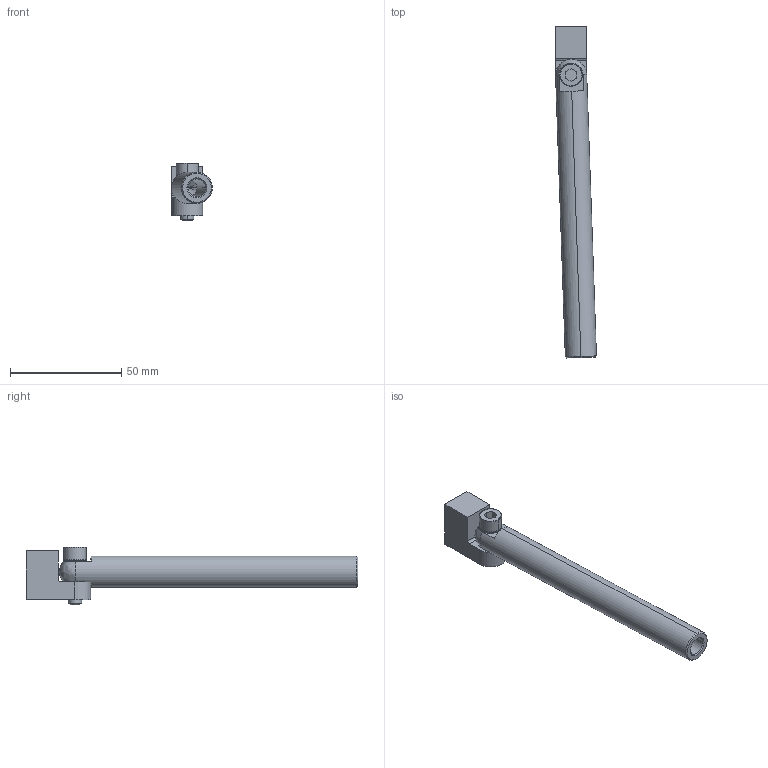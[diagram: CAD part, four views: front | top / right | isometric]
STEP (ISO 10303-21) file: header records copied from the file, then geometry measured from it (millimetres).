
FILE_DESCRIPTION (( 'STEP AP214' ), '1' );
FILE_NAME ('SEAV-G1814L120.STEP', '2019-11-11T05:15:53', ( '微软用户' ), ( '微软中国' ), 'SwSTEP 2.0', 'SolidWorks 2016', '' );
FILE_SCHEMA (( 'AUTOMOTIVE_DESIGN' ));
Length unit declared in the file: millimetre
Products named in the file (1): SEAV-G1814L120
Bounding box: 18.37 x 149.15 x 26 mm (x, y, z)
Volume: 19107.2 mm3; surface area: 12719 mm2
Topology: 4 solids, 4 shells, 208 faces, 589 edges, 384 vertices
Faces by surface type: plane 166, cylinder 23, cone 16, bspline 3
Entity records: 9237 total; most frequent: CARTESIAN_POINT 1339, DIRECTION 1195, ORIENTED_EDGE 1166, EDGE_CURVE 583, AXIS2_PLACEMENT_3D 414, VERTEX_POINT 384, LINE 367, VECTOR 367
